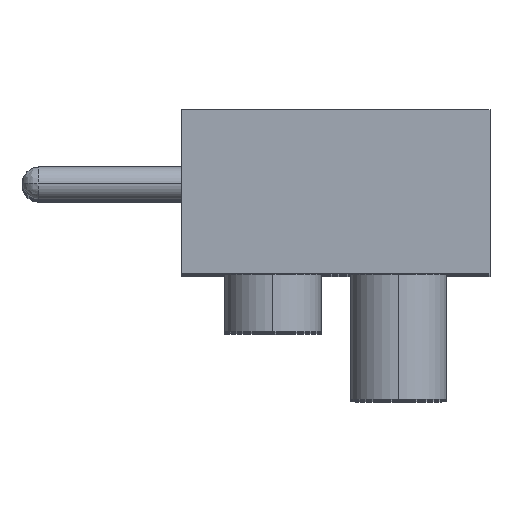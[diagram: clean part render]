
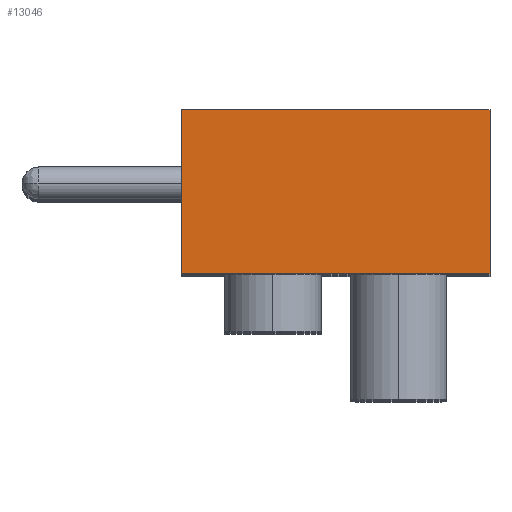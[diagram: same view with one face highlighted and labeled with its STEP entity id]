
A CAD part, top view. The second image highlights one B-rep face of the part: STEP entity #13046.
In plain terms, the highlighted planar face has unit normal (0, 0, 1).
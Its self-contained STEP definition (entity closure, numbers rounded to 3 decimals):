
#10882 = VERTEX_POINT ( 'NONE', #32417 ) ;
#10887 = EDGE_CURVE ( 'NONE', #10889, #10882, #32407, .T. ) ;
#10889 = VERTEX_POINT ( 'NONE', #32476 ) ;
#13036 = VERTEX_POINT ( 'NONE', #46399 ) ;
#13040 = EDGE_CURVE ( 'NONE', #10882, #13036, #46479, .T. ) ;
#13046 = ADVANCED_FACE ( 'NONE', ( #46451 ), #46532, .T. ) ;
#13047 = EDGE_LOOP ( 'NONE', ( #13049, #13081, #13086, #13091 ) ) ;
#13049 = ORIENTED_EDGE ( 'NONE', *, *, #13040, .T. ) ;
#13050 = VERTEX_POINT ( 'NONE', #46517 ) ;
#13081 = ORIENTED_EDGE ( 'NONE', *, *, #13083, .T. ) ;
#13083 = EDGE_CURVE ( 'NONE', #13036, #13050, #46670, .T. ) ;
#13086 = ORIENTED_EDGE ( 'NONE', *, *, #13087, .T. ) ;
#13087 = EDGE_CURVE ( 'NONE', #13050, #10889, #46765, .T. ) ;
#13091 = ORIENTED_EDGE ( 'NONE', *, *, #10887, .T. ) ;
#32403 = DIRECTION ( 'NONE',  ( -1., 0., 0. ) ) ;
#32404 = VECTOR ( 'NONE', #32403, 1000. ) ;
#32405 = CARTESIAN_POINT ( 'NONE',  ( 8., 8.5, 0. ) ) ;
#32407 = LINE ( 'NONE', #32405, #32404 ) ;
#32417 = CARTESIAN_POINT ( 'NONE',  ( -8., 8.5, 0. ) ) ;
#32476 = CARTESIAN_POINT ( 'NONE',  ( 8., 8.5, 0. ) ) ;
#46399 = CARTESIAN_POINT ( 'NONE',  ( -8., 0., 0. ) ) ;
#46451 = FACE_OUTER_BOUND ( 'NONE', #13047, .T. ) ;
#46461 = DIRECTION ( 'NONE',  ( 0., -1., 0. ) ) ;
#46463 = VECTOR ( 'NONE', #46461, 1000. ) ;
#46466 = CARTESIAN_POINT ( 'NONE',  ( -8., 8.5, 0. ) ) ;
#46479 = LINE ( 'NONE', #46466, #46463 ) ;
#46517 = CARTESIAN_POINT ( 'NONE',  ( 8., 0., 0. ) ) ;
#46519 = DIRECTION ( 'NONE',  ( 1., 0., 0. ) ) ;
#46521 = DIRECTION ( 'NONE',  ( 0., 0., 1. ) ) ;
#46523 = CARTESIAN_POINT ( 'NONE',  ( 8., 8.5, 0. ) ) ;
#46525 = AXIS2_PLACEMENT_3D ( 'NONE', #46523, #46521, #46519 ) ;
#46532 = PLANE ( 'NONE',  #46525 ) ;
#46670 = LINE ( 'NONE', #46773, #46772 ) ;
#46744 = DIRECTION ( 'NONE',  ( 0., 1., 0. ) ) ;
#46745 = VECTOR ( 'NONE', #46744, 1000. ) ;
#46746 = CARTESIAN_POINT ( 'NONE',  ( 8., 0., 0. ) ) ;
#46765 = LINE ( 'NONE', #46746, #46745 ) ;
#46771 = DIRECTION ( 'NONE',  ( 1., 0., 0. ) ) ;
#46772 = VECTOR ( 'NONE', #46771, 1000. ) ;
#46773 = CARTESIAN_POINT ( 'NONE',  ( 8., 0., 0. ) ) ;
